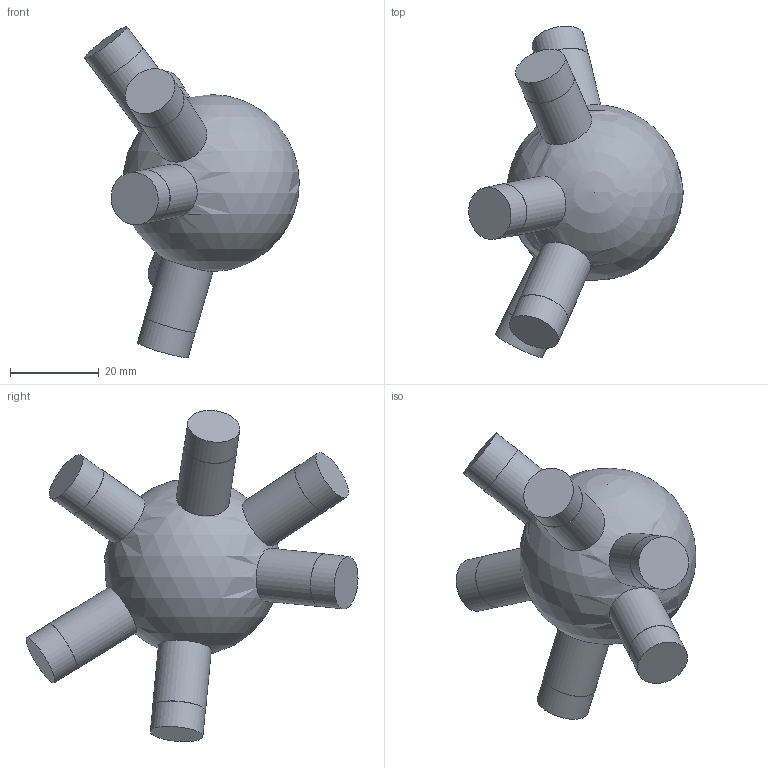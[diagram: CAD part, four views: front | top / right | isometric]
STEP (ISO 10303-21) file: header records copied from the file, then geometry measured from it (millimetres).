
FILE_DESCRIPTION(('Open CASCADE Model'),'2;1');
FILE_NAME('Open CASCADE Shape Model','2026-10-21T12:47:57',('Author'),( 'Open CASCADE'),'Open CASCADE STEP processor 7.9','Open CASCADE 7.9' ,'Unknown');
FILE_SCHEMA(('AUTOMOTIVE_DESIGN { 1 0 10303 214 1 1 1 1 }'));
Length unit declared in the file: millimetre
Products named in the file (1): Open CASCADE STEP translator 7.9 131
Bounding box: 48.48 x 75 x 74.85 mm (x, y, z)
Volume: 46955.5 mm3; surface area: 9608.5 mm2
Topology: 1 solids, 1 shells, 25 faces, 39 edges, 26 vertices
Faces by surface type: cylinder 12, plane 12, sphere 1
Full cylindrical faces by diameter (mm): 11.9 x6, 12 x6
Entity records: 1596 total; most frequent: CARTESIAN_POINT 698, DIRECTION 185, ORIENTED_EDGE 76, PCURVE 76, DEFINITIONAL_REPRESENTATION 76, LINE 63, VECTOR 63, AXIS2_PLACEMENT_3D 52
